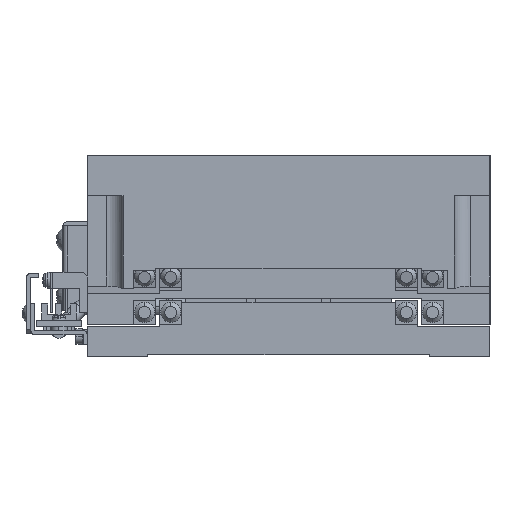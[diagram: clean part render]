
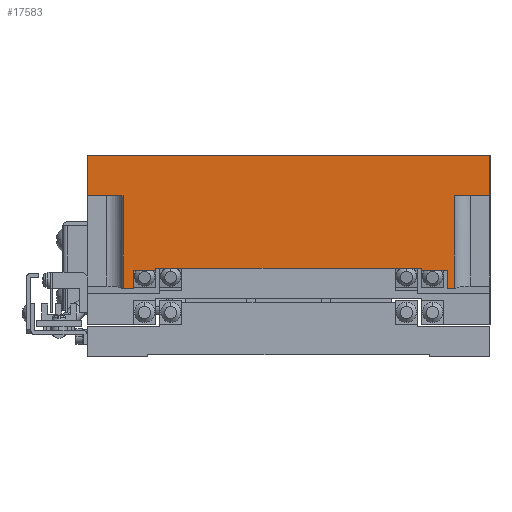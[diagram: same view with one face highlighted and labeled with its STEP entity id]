
A CAD part, left-side view. The second image highlights one B-rep face of the part: STEP entity #17583.
In plain terms, the highlighted planar face has unit normal (-1, 0, 0) as drawn and (1, 0, 0) by its records, which use the part's own axes.
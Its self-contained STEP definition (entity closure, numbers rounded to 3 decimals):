
#1515 = VERTEX_POINT ( 'NONE', #60324 ) ;
#1728 = CARTESIAN_POINT ( 'NONE',  ( 240.291, -72.774, 51.5 ) ) ;
#1743 = CARTESIAN_POINT ( 'NONE',  ( 240.291, -155.774, 70. ) ) ;
#3000 = CARTESIAN_POINT ( 'NONE',  ( 240.291, -55.774, 80. ) ) ;
#3690 = LINE ( 'NONE', #67216, #50627 ) ;
#4448 = FACE_OUTER_BOUND ( 'NONE', #25477, .T. ) ;
#5629 = DIRECTION ( 'NONE',  ( 0., 0., 1. ) ) ;
#5906 = VECTOR ( 'NONE', #66275, 1000. ) ;
#7480 = VERTEX_POINT ( 'NONE', #29454 ) ;
#7993 = DIRECTION ( 'NONE',  ( 0., 1., 0. ) ) ;
#8071 = LINE ( 'NONE', #62679, #44189 ) ;
#8141 = VECTOR ( 'NONE', #5629, 1000. ) ;
#8307 = LINE ( 'NONE', #22121, #61579 ) ;
#9001 = ORIENTED_EDGE ( 'NONE', *, *, #67005, .T. ) ;
#9184 = DIRECTION ( 'NONE',  ( 0., 1., 0. ) ) ;
#9576 = VERTEX_POINT ( 'NONE', #32503 ) ;
#11491 = VERTEX_POINT ( 'NONE', #70624 ) ;
#11502 = VECTOR ( 'NONE', #46936, 1000. ) ;
#12937 = EDGE_CURVE ( 'NONE', #7480, #43132, #67976, .T. ) ;
#13523 = CARTESIAN_POINT ( 'NONE',  ( 240.291, -144.274, 51.5 ) ) ;
#16815 = ORIENTED_EDGE ( 'NONE', *, *, #17284, .T. ) ;
#17284 = EDGE_CURVE ( 'NONE', #52295, #20820, #29774, .T. ) ;
#17373 = CARTESIAN_POINT ( 'NONE',  ( 240.291, -155.774, 80. ) ) ;
#17583 = ADVANCED_FACE ( 'NONE', ( #4448 ), #59929, .T. ) ;
#17975 = EDGE_CURVE ( 'NONE', #9576, #11491, #25127, .T. ) ;
#18191 = CARTESIAN_POINT ( 'NONE',  ( 240.291, -66.274, 80. ) ) ;
#19092 = EDGE_CURVE ( 'NONE', #7480, #71214, #54719, .T. ) ;
#19139 = CARTESIAN_POINT ( 'NONE',  ( 240.291, -138.774, 52.015 ) ) ;
#19446 = EDGE_CURVE ( 'NONE', #55914, #68804, #27595, .T. ) ;
#20057 = ORIENTED_EDGE ( 'NONE', *, *, #57210, .F. ) ;
#20087 = LINE ( 'NONE', #44727, #39929 ) ;
#20747 = ORIENTED_EDGE ( 'NONE', *, *, #19092, .T. ) ;
#20820 = VERTEX_POINT ( 'NONE', #74727 ) ;
#20952 = EDGE_CURVE ( 'NONE', #71961, #68804, #21087, .T. ) ;
#21087 = LINE ( 'NONE', #13523, #52628 ) ;
#21687 = LINE ( 'NONE', #57339, #8141 ) ;
#21990 = VECTOR ( 'NONE', #48180, 1000. ) ;
#22121 = CARTESIAN_POINT ( 'NONE',  ( 240.291, -55.774, 80. ) ) ;
#22209 = LINE ( 'NONE', #67161, #33912 ) ;
#23141 = VECTOR ( 'NONE', #56154, 1000. ) ;
#23748 = CARTESIAN_POINT ( 'NONE',  ( 240.291, -146.874, 47. ) ) ;
#23822 = EDGE_CURVE ( 'NONE', #58098, #1515, #28085, .T. ) ;
#23962 = LINE ( 'NONE', #72285, #5906 ) ;
#24300 = EDGE_CURVE ( 'NONE', #71214, #55996, #46989, .T. ) ;
#24468 = VECTOR ( 'NONE', #45324, 1000. ) ;
#25127 = LINE ( 'NONE', #62270, #29633 ) ;
#25477 = EDGE_LOOP ( 'NONE', ( #73707, #20057, #39388, #20747, #56728, #59970, #36774, #65557, #34572, #29303, #26791, #9001, #37379, #38232, #16815, #30805 ) ) ;
#26791 = ORIENTED_EDGE ( 'NONE', *, *, #48684, .T. ) ;
#27053 = DIRECTION ( 'NONE',  ( 0., 1., 0. ) ) ;
#27595 = LINE ( 'NONE', #33175, #23141 ) ;
#28085 = LINE ( 'NONE', #39751, #24468 ) ;
#29303 = ORIENTED_EDGE ( 'NONE', *, *, #19446, .F. ) ;
#29454 = CARTESIAN_POINT ( 'NONE',  ( 240.291, -155.774, 80. ) ) ;
#29633 = VECTOR ( 'NONE', #73312, 1000. ) ;
#29774 = LINE ( 'NONE', #44353, #45144 ) ;
#29870 = EDGE_CURVE ( 'NONE', #52801, #52295, #3690, .T. ) ;
#30805 = ORIENTED_EDGE ( 'NONE', *, *, #73069, .T. ) ;
#31256 = VECTOR ( 'NONE', #46388, 1000. ) ;
#31714 = DIRECTION ( 'NONE',  ( 0., 1., 0. ) ) ;
#32503 = CARTESIAN_POINT ( 'NONE',  ( 240.291, -55.774, 70. ) ) ;
#32943 = DIRECTION ( 'NONE',  ( 0., 0., -1. ) ) ;
#33175 = CARTESIAN_POINT ( 'NONE',  ( 240.291, -138.774, 80. ) ) ;
#33912 = VECTOR ( 'NONE', #9184, 1000. ) ;
#33931 = DIRECTION ( 'NONE',  ( 0., 0., -1. ) ) ;
#34308 = VECTOR ( 'NONE', #68048, 1000. ) ;
#34572 = ORIENTED_EDGE ( 'NONE', *, *, #20952, .T. ) ;
#36774 = ORIENTED_EDGE ( 'NONE', *, *, #23822, .T. ) ;
#37379 = ORIENTED_EDGE ( 'NONE', *, *, #45603, .T. ) ;
#38232 = ORIENTED_EDGE ( 'NONE', *, *, #29870, .T. ) ;
#39388 = ORIENTED_EDGE ( 'NONE', *, *, #12937, .F. ) ;
#39751 = CARTESIAN_POINT ( 'NONE',  ( 240.291, -155.774, 47. ) ) ;
#39929 = VECTOR ( 'NONE', #27053, 1000. ) ;
#42676 = AXIS2_PLACEMENT_3D ( 'NONE', #42782, #49088, #7993 ) ;
#42782 = CARTESIAN_POINT ( 'NONE',  ( 240.291, -66.274, 80. ) ) ;
#43132 = VERTEX_POINT ( 'NONE', #3000 ) ;
#44189 = VECTOR ( 'NONE', #33931, 1000. ) ;
#44194 = EDGE_CURVE ( 'NONE', #71961, #1515, #23962, .T. ) ;
#44353 = CARTESIAN_POINT ( 'NONE',  ( 240.291, -66.274, 47. ) ) ;
#44727 = CARTESIAN_POINT ( 'NONE',  ( 240.291, -72.774, 51.5 ) ) ;
#45144 = VECTOR ( 'NONE', #31714, 1000. ) ;
#45324 = DIRECTION ( 'NONE',  ( 0., 1., 0. ) ) ;
#45603 = EDGE_CURVE ( 'NONE', #69666, #52801, #20087, .T. ) ;
#46388 = DIRECTION ( 'NONE',  ( 0., 0., -1. ) ) ;
#46936 = DIRECTION ( 'NONE',  ( 0., 0., 1. ) ) ;
#46989 = LINE ( 'NONE', #69043, #34308 ) ;
#48180 = DIRECTION ( 'NONE',  ( 0., 1., 0. ) ) ;
#48684 = EDGE_CURVE ( 'NONE', #55914, #70056, #22209, .T. ) ;
#49088 = DIRECTION ( 'NONE',  ( 1., 0., 0. ) ) ;
#49807 = CARTESIAN_POINT ( 'NONE',  ( 240.291, -146.874, 70. ) ) ;
#50627 = VECTOR ( 'NONE', #72993, 1000. ) ;
#52295 = VERTEX_POINT ( 'NONE', #73091 ) ;
#52628 = VECTOR ( 'NONE', #66171, 1000. ) ;
#52801 = VERTEX_POINT ( 'NONE', #68907 ) ;
#54719 = LINE ( 'NONE', #17373, #31256 ) ;
#55914 = VERTEX_POINT ( 'NONE', #19139 ) ;
#55996 = VERTEX_POINT ( 'NONE', #49807 ) ;
#56154 = DIRECTION ( 'NONE',  ( 0., 0., -1. ) ) ;
#56728 = ORIENTED_EDGE ( 'NONE', *, *, #24300, .T. ) ;
#56968 = CARTESIAN_POINT ( 'NONE',  ( 240.291, -72.774, 52.015 ) ) ;
#57210 = EDGE_CURVE ( 'NONE', #43132, #9576, #8307, .T. ) ;
#57339 = CARTESIAN_POINT ( 'NONE',  ( 240.291, -64.674, 47. ) ) ;
#58098 = VERTEX_POINT ( 'NONE', #64288 ) ;
#59929 = PLANE ( 'NONE',  #42676 ) ;
#59970 = ORIENTED_EDGE ( 'NONE', *, *, #63202, .F. ) ;
#60324 = CARTESIAN_POINT ( 'NONE',  ( 240.291, -144.274, 47. ) ) ;
#61523 = CARTESIAN_POINT ( 'NONE',  ( 240.291, -138.774, 51.5 ) ) ;
#61579 = VECTOR ( 'NONE', #32943, 1000. ) ;
#62270 = CARTESIAN_POINT ( 'NONE',  ( 240.291, -55.774, 70. ) ) ;
#62679 = CARTESIAN_POINT ( 'NONE',  ( 240.291, -72.774, 80. ) ) ;
#63202 = EDGE_CURVE ( 'NONE', #58098, #55996, #72761, .T. ) ;
#63812 = CARTESIAN_POINT ( 'NONE',  ( 240.291, -144.274, 51.5 ) ) ;
#64288 = CARTESIAN_POINT ( 'NONE',  ( 240.291, -146.874, 47. ) ) ;
#65557 = ORIENTED_EDGE ( 'NONE', *, *, #44194, .F. ) ;
#66171 = DIRECTION ( 'NONE',  ( 0., 1., 0. ) ) ;
#66275 = DIRECTION ( 'NONE',  ( 0., 0., -1. ) ) ;
#67005 = EDGE_CURVE ( 'NONE', #70056, #69666, #8071, .T. ) ;
#67161 = CARTESIAN_POINT ( 'NONE',  ( 240.291, -138.774, 52.015 ) ) ;
#67216 = CARTESIAN_POINT ( 'NONE',  ( 240.291, -66.274, 80. ) ) ;
#67976 = LINE ( 'NONE', #18191, #21990 ) ;
#68048 = DIRECTION ( 'NONE',  ( 0., 1., 0. ) ) ;
#68804 = VERTEX_POINT ( 'NONE', #61523 ) ;
#68907 = CARTESIAN_POINT ( 'NONE',  ( 240.291, -66.274, 51.5 ) ) ;
#69043 = CARTESIAN_POINT ( 'NONE',  ( 240.291, -155.774, 70. ) ) ;
#69666 = VERTEX_POINT ( 'NONE', #1728 ) ;
#70056 = VERTEX_POINT ( 'NONE', #56968 ) ;
#70624 = CARTESIAN_POINT ( 'NONE',  ( 240.291, -64.674, 70. ) ) ;
#71214 = VERTEX_POINT ( 'NONE', #1743 ) ;
#71961 = VERTEX_POINT ( 'NONE', #63812 ) ;
#72285 = CARTESIAN_POINT ( 'NONE',  ( 240.291, -144.274, 80. ) ) ;
#72761 = LINE ( 'NONE', #23748, #11502 ) ;
#72993 = DIRECTION ( 'NONE',  ( 0., 0., -1. ) ) ;
#73069 = EDGE_CURVE ( 'NONE', #20820, #11491, #21687, .T. ) ;
#73091 = CARTESIAN_POINT ( 'NONE',  ( 240.291, -66.274, 47. ) ) ;
#73312 = DIRECTION ( 'NONE',  ( 0., -1., 0. ) ) ;
#73707 = ORIENTED_EDGE ( 'NONE', *, *, #17975, .F. ) ;
#74727 = CARTESIAN_POINT ( 'NONE',  ( 240.291, -64.674, 47. ) ) ;
